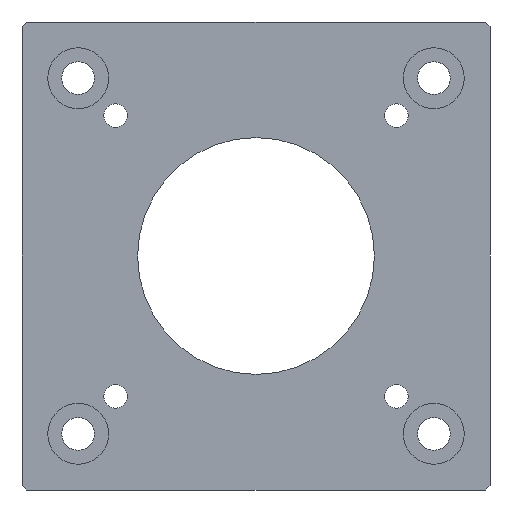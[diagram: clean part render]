
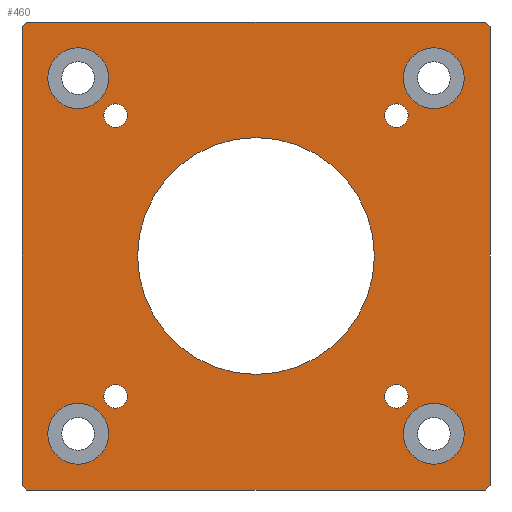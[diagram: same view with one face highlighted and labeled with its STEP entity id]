
A CAD part, front view. The second image highlights one B-rep face of the part: STEP entity #460.
In plain terms, the highlighted planar face has unit normal (0, -1, 0).
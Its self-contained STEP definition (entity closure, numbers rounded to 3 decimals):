
#27=FACE_BOUND('',#117,.T.);
#28=FACE_BOUND('',#118,.T.);
#29=FACE_BOUND('',#119,.T.);
#30=FACE_BOUND('',#120,.T.);
#31=FACE_BOUND('',#121,.T.);
#32=FACE_BOUND('',#122,.T.);
#33=FACE_BOUND('',#123,.T.);
#34=FACE_BOUND('',#124,.T.);
#35=FACE_BOUND('',#125,.T.);
#62=CIRCLE('',#508,12.647);
#63=CIRCLE('',#509,3.25);
#64=CIRCLE('',#510,3.25);
#65=CIRCLE('',#511,3.25);
#66=CIRCLE('',#512,3.25);
#67=CIRCLE('',#513,1.25);
#68=CIRCLE('',#514,1.25);
#69=CIRCLE('',#515,1.25);
#70=CIRCLE('',#516,1.25);
#89=FACE_OUTER_BOUND('',#116,.T.);
#116=EDGE_LOOP('',(#321,#322,#323,#324,#325,#326,#327,#328));
#117=EDGE_LOOP('',(#329));
#118=EDGE_LOOP('',(#330));
#119=EDGE_LOOP('',(#331));
#120=EDGE_LOOP('',(#332));
#121=EDGE_LOOP('',(#333));
#122=EDGE_LOOP('',(#334));
#123=EDGE_LOOP('',(#335));
#124=EDGE_LOOP('',(#336));
#125=EDGE_LOOP('',(#337));
#179=LINE('',#699,#203);
#181=LINE('',#703,#205);
#182=LINE('',#705,#206);
#183=LINE('',#707,#207);
#184=LINE('',#709,#208);
#185=LINE('',#711,#209);
#186=LINE('',#713,#210);
#187=LINE('',#714,#211);
#203=VECTOR('',#565,10.);
#205=VECTOR('',#569,10.);
#206=VECTOR('',#570,10.);
#207=VECTOR('',#571,10.);
#208=VECTOR('',#572,10.);
#209=VECTOR('',#573,10.);
#210=VECTOR('',#574,10.);
#211=VECTOR('',#575,10.);
#227=VERTEX_POINT('',#696);
#228=VERTEX_POINT('',#698);
#229=VERTEX_POINT('',#702);
#230=VERTEX_POINT('',#704);
#231=VERTEX_POINT('',#706);
#232=VERTEX_POINT('',#708);
#233=VERTEX_POINT('',#710);
#234=VERTEX_POINT('',#712);
#235=VERTEX_POINT('',#715);
#236=VERTEX_POINT('',#717);
#237=VERTEX_POINT('',#719);
#238=VERTEX_POINT('',#721);
#239=VERTEX_POINT('',#723);
#240=VERTEX_POINT('',#725);
#241=VERTEX_POINT('',#727);
#242=VERTEX_POINT('',#729);
#243=VERTEX_POINT('',#731);
#269=EDGE_CURVE('',#227,#228,#179,.T.);
#271=EDGE_CURVE('',#227,#229,#181,.T.);
#272=EDGE_CURVE('',#230,#229,#182,.T.);
#273=EDGE_CURVE('',#230,#231,#183,.T.);
#274=EDGE_CURVE('',#232,#231,#184,.T.);
#275=EDGE_CURVE('',#232,#233,#185,.T.);
#276=EDGE_CURVE('',#234,#233,#186,.T.);
#277=EDGE_CURVE('',#234,#228,#187,.T.);
#278=EDGE_CURVE('',#235,#235,#62,.T.);
#279=EDGE_CURVE('',#236,#236,#63,.T.);
#280=EDGE_CURVE('',#237,#237,#64,.T.);
#281=EDGE_CURVE('',#238,#238,#65,.T.);
#282=EDGE_CURVE('',#239,#239,#66,.T.);
#283=EDGE_CURVE('',#240,#240,#67,.T.);
#284=EDGE_CURVE('',#241,#241,#68,.T.);
#285=EDGE_CURVE('',#242,#242,#69,.T.);
#286=EDGE_CURVE('',#243,#243,#70,.T.);
#321=ORIENTED_EDGE('',*,*,#269,.F.);
#322=ORIENTED_EDGE('',*,*,#271,.T.);
#323=ORIENTED_EDGE('',*,*,#272,.F.);
#324=ORIENTED_EDGE('',*,*,#273,.T.);
#325=ORIENTED_EDGE('',*,*,#274,.F.);
#326=ORIENTED_EDGE('',*,*,#275,.T.);
#327=ORIENTED_EDGE('',*,*,#276,.F.);
#328=ORIENTED_EDGE('',*,*,#277,.T.);
#329=ORIENTED_EDGE('',*,*,#278,.T.);
#330=ORIENTED_EDGE('',*,*,#279,.T.);
#331=ORIENTED_EDGE('',*,*,#280,.T.);
#332=ORIENTED_EDGE('',*,*,#281,.T.);
#333=ORIENTED_EDGE('',*,*,#282,.T.);
#334=ORIENTED_EDGE('',*,*,#283,.T.);
#335=ORIENTED_EDGE('',*,*,#284,.T.);
#336=ORIENTED_EDGE('',*,*,#285,.T.);
#337=ORIENTED_EDGE('',*,*,#286,.T.);
#418=PLANE('',#507);
#460=ADVANCED_FACE('',(#89,#27,#28,#29,#30,#31,#32,#33,#34,#35),#418,.T.);
#507=AXIS2_PLACEMENT_3D('',#701,#567,#568);
#508=AXIS2_PLACEMENT_3D('',#716,#576,#577);
#509=AXIS2_PLACEMENT_3D('',#718,#578,#579);
#510=AXIS2_PLACEMENT_3D('',#720,#580,#581);
#511=AXIS2_PLACEMENT_3D('',#722,#582,#583);
#512=AXIS2_PLACEMENT_3D('',#724,#584,#585);
#513=AXIS2_PLACEMENT_3D('',#726,#586,#587);
#514=AXIS2_PLACEMENT_3D('',#728,#588,#589);
#515=AXIS2_PLACEMENT_3D('',#730,#590,#591);
#516=AXIS2_PLACEMENT_3D('',#732,#592,#593);
#565=DIRECTION('',(-0.707,0.,0.707));
#567=DIRECTION('center_axis',(0.,-1.,0.));
#568=DIRECTION('ref_axis',(0.,0.,-1.));
#569=DIRECTION('',(1.,0.,0.));
#570=DIRECTION('',(-0.707,0.,-0.707));
#571=DIRECTION('',(0.,0.,1.));
#572=DIRECTION('',(0.707,0.,-0.707));
#573=DIRECTION('',(-1.,0.,0.));
#574=DIRECTION('',(0.707,0.,0.707));
#575=DIRECTION('',(0.,0.,-1.));
#576=DIRECTION('center_axis',(0.,1.,0.));
#577=DIRECTION('ref_axis',(1.,0.,0.));
#578=DIRECTION('center_axis',(0.,1.,0.));
#579=DIRECTION('ref_axis',(1.,0.,0.));
#580=DIRECTION('center_axis',(0.,1.,0.));
#581=DIRECTION('ref_axis',(1.,0.,0.));
#582=DIRECTION('center_axis',(0.,1.,0.));
#583=DIRECTION('ref_axis',(1.,0.,0.));
#584=DIRECTION('center_axis',(0.,1.,0.));
#585=DIRECTION('ref_axis',(1.,0.,0.));
#586=DIRECTION('center_axis',(0.,1.,0.));
#587=DIRECTION('ref_axis',(1.,0.,0.));
#588=DIRECTION('center_axis',(0.,1.,0.));
#589=DIRECTION('ref_axis',(1.,0.,0.));
#590=DIRECTION('center_axis',(0.,1.,0.));
#591=DIRECTION('ref_axis',(1.,0.,0.));
#592=DIRECTION('center_axis',(0.,1.,0.));
#593=DIRECTION('ref_axis',(1.,0.,0.));
#696=CARTESIAN_POINT('',(-24.5,-4.,-25.));
#698=CARTESIAN_POINT('',(-25.,-4.,-24.5));
#699=CARTESIAN_POINT('',(-24.75,-4.,-24.75));
#701=CARTESIAN_POINT('Origin',(0.,-4.,0.));
#702=CARTESIAN_POINT('',(24.5,-4.,-25.));
#703=CARTESIAN_POINT('',(25.,-4.,-25.));
#704=CARTESIAN_POINT('',(25.,-4.,-24.5));
#705=CARTESIAN_POINT('',(24.75,-4.,-24.75));
#706=CARTESIAN_POINT('',(25.,-4.,24.5));
#707=CARTESIAN_POINT('',(25.,-4.,25.));
#708=CARTESIAN_POINT('',(24.5,-4.,25.));
#709=CARTESIAN_POINT('',(24.75,-4.,24.75));
#710=CARTESIAN_POINT('',(-24.5,-4.,25.));
#711=CARTESIAN_POINT('',(-25.,-4.,25.));
#712=CARTESIAN_POINT('',(-25.,-4.,24.5));
#713=CARTESIAN_POINT('',(-24.75,-4.,24.75));
#714=CARTESIAN_POINT('',(-25.,-4.,-25.));
#715=CARTESIAN_POINT('',(12.647,-4.,0.));
#716=CARTESIAN_POINT('Origin',(0.,-4.,0.));
#717=CARTESIAN_POINT('',(-15.75,-4.,-19.));
#718=CARTESIAN_POINT('Origin',(-19.,-4.,-19.));
#719=CARTESIAN_POINT('',(-15.75,-4.,19.));
#720=CARTESIAN_POINT('Origin',(-19.,-4.,19.));
#721=CARTESIAN_POINT('',(22.25,-4.,19.));
#722=CARTESIAN_POINT('Origin',(19.,-4.,19.));
#723=CARTESIAN_POINT('',(22.25,-4.,-19.));
#724=CARTESIAN_POINT('Origin',(19.,-4.,-19.));
#725=CARTESIAN_POINT('',(16.25,-4.,-15.));
#726=CARTESIAN_POINT('Origin',(15.,-4.,-15.));
#727=CARTESIAN_POINT('',(-13.75,-4.,15.));
#728=CARTESIAN_POINT('Origin',(-15.,-4.,15.));
#729=CARTESIAN_POINT('',(16.25,-4.,15.));
#730=CARTESIAN_POINT('Origin',(15.,-4.,15.));
#731=CARTESIAN_POINT('',(-13.75,-4.,-15.));
#732=CARTESIAN_POINT('Origin',(-15.,-4.,-15.));
